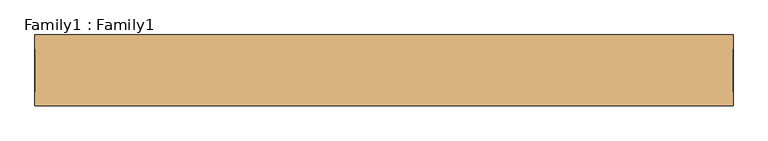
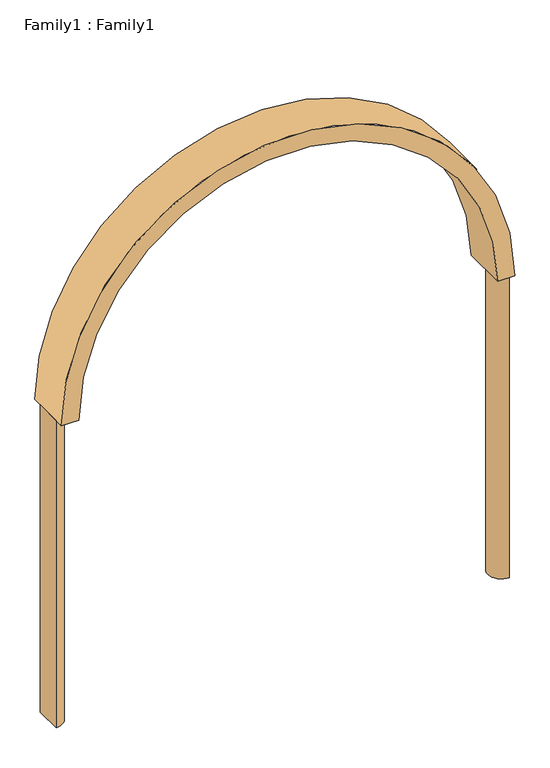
"""IFC4 building model written with IfcOpenShell, lengths in millimetres: door geometry, Family1 : Family1."""

from ifc_helpers import new_model, si_unit, point, frame, frame_2d, origin, origin_with_axes, place, context, project, spatial, polyline, circle_curve, trimmed, segment, composite_curve, outline, extrude, source, transform, mapped, element, save


def family1_family1_d6cad51c(model_context):
    return source(origin(), model_context, "Body", "SweptSolid", [
        extrude(outline(composite_curve([segment(trimmed(circle_curve(frame_2d((986.3414599, 0.0)), 60.0), [point((986.3414599, -60.0))], [point((986.3414599, 60.0))], False, "CARTESIAN"), True, "CONTINUOUS"), segment(polyline([(986.3414599, 60.0), (986.3414599, -60.0)]), True, "CONTINUOUS")], self_intersect=False)), origin_with_axes(), (0.0, 0.0, 1.0), 1413.6585401),
        extrude(outline(composite_curve([segment(polyline([(-986.3414599, -60.0), (-986.3414599, 60.0)]), True, "CONTINUOUS"), segment(trimmed(circle_curve(frame_2d((-986.3414599, 0.0)), 60.0), [point((-986.3414599, 60.0))], [point((-986.3414599, -60.0))], False, "CARTESIAN"), True, "CONTINUOUS")], self_intersect=False)), origin_with_axes(), (0.0, 0.0, 1.0), 1413.6585401),
        extrude(outline(composite_curve([segment(trimmed(circle_curve(frame_2d((1413.6585401, 0.0)), 986.3414599), [point((1413.6585401, 986.3414599))], [point((1413.6585401, -986.3414599))], False, "CARTESIAN"), True, "CONTINUOUS"), segment(polyline([(1413.6585401, -986.3414599), (1413.6585401, -911.3414599)]), True, "CONTINUOUS"), segment(trimmed(circle_curve(frame_2d((1413.6585401, 0.0)), 911.3414599), [point((1413.6585401, -911.3414599))], [point((1413.6585401, 911.3414599))], True, "CARTESIAN"), True, "CONTINUOUS"), segment(polyline([(1413.6585401, 911.3414599), (1413.6585401, 986.3414599)]), True, "CONTINUOUS")], self_intersect=False)), frame((0.0, -100.0, 0.0), z_axis=(0.0, 1.0, 0.0), x_axis=(0.0, 0.0, 1.0)), (0.0, 0.0, 1.0), 200.0),
    ])


if __name__ == "__main__":
    model = new_model("IFC4")
    model_context = context("Model", 3, world=origin())
    ifc_project = project(units=[si_unit("LENGTHUNIT", "METRE", prefix="MILLI")], contexts=[model_context])
    site = spatial("IfcSite", under=ifc_project)
    building = spatial("IfcBuilding", under=site)
    placement = place(None, origin())
    family1_family1_shape = family1_family1_d6cad51c(model_context)
    element("IfcDoor", 1, ObjectType="Family1 : Family1", at=placement, inside=building, context=model_context, shape_type="MappedRepresentation", body=[
        mapped(family1_family1_shape, transform((0.0, 0.0, 0.0), x_axis=(1.0, 0.0, 0.0), y_axis=(0.0, 1.0, 0.0), z_axis=(0.0, 0.0, 1.0))),
    ])
    save(model, "model.ifc")
